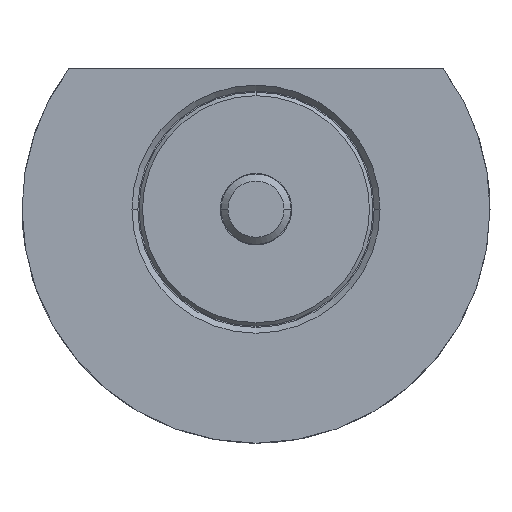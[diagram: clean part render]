
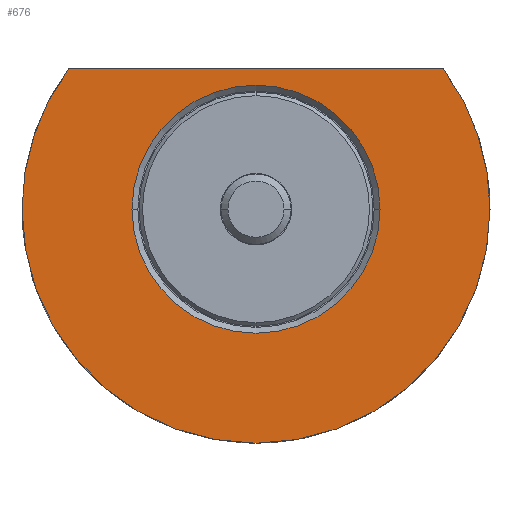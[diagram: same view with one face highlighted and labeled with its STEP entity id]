
A CAD part, front view. The second image highlights one B-rep face of the part: STEP entity #676.
In plain terms, the highlighted planar face has unit normal (0, -1, 0).
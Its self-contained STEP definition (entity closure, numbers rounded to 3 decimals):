
#101 = DIRECTION ( 'NONE',  ( 1., 0., 0. ) ) ;
#130 = DIRECTION ( 'NONE',  ( -1., 0., 0. ) ) ;
#151 = CIRCLE ( 'NONE', #2389, 20. ) ;
#154 = CIRCLE ( 'NONE', #1206, 20. ) ;
#170 = CARTESIAN_POINT ( 'NONE',  ( 0., -10., 0. ) ) ;
#225 = CIRCLE ( 'NONE', #688, 10.6 ) ;
#267 = LINE ( 'NONE', #2267, #2153 ) ;
#293 = DIRECTION ( 'NONE',  ( 0., -1., 0. ) ) ;
#378 = EDGE_LOOP ( 'NONE', ( #722, #2509, #1837, #828 ) ) ;
#576 = EDGE_CURVE ( 'NONE', #1182, #652, #267, .T. ) ;
#583 = DIRECTION ( 'NONE',  ( 0., 1., 0. ) ) ;
#652 = VERTEX_POINT ( 'NONE', #2337 ) ;
#676 = ADVANCED_FACE ( 'NONE', ( #1691, #2518 ), #2312, .T. ) ;
#688 = AXIS2_PLACEMENT_3D ( 'NONE', #2430, #583, #1039 ) ;
#722 = ORIENTED_EDGE ( 'NONE', *, *, #1635, .F. ) ;
#828 = ORIENTED_EDGE ( 'NONE', *, *, #1261, .F. ) ;
#836 = DIRECTION ( 'NONE',  ( 0., 1., 0. ) ) ;
#840 = EDGE_LOOP ( 'NONE', ( #1400, #2031 ) ) ;
#930 = DIRECTION ( 'NONE',  ( 0., 1., 0. ) ) ;
#931 = CARTESIAN_POINT ( 'NONE',  ( -10.6, -10., 0. ) ) ;
#942 = CARTESIAN_POINT ( 'NONE',  ( 0., -10., 0. ) ) ;
#972 = DIRECTION ( 'NONE',  ( -1., 0., 0. ) ) ;
#1039 = DIRECTION ( 'NONE',  ( -1., 0., 0. ) ) ;
#1072 = DIRECTION ( 'NONE',  ( -1., 0., 0. ) ) ;
#1125 = CARTESIAN_POINT ( 'NONE',  ( -10.6, -10., 0. ) ) ;
#1167 = AXIS2_PLACEMENT_3D ( 'NONE', #942, #930, #130 ) ;
#1182 = VERTEX_POINT ( 'NONE', #2619 ) ;
#1206 = AXIS2_PLACEMENT_3D ( 'NONE', #1213, #836, #2613 ) ;
#1213 = CARTESIAN_POINT ( 'NONE',  ( 0., -10., 0. ) ) ;
#1261 = EDGE_CURVE ( 'NONE', #2344, #1836, #2343, .T. ) ;
#1393 = EDGE_CURVE ( 'NONE', #1836, #652, #151, .T. ) ;
#1400 = ORIENTED_EDGE ( 'NONE', *, *, #1451, .T. ) ;
#1451 = EDGE_CURVE ( 'NONE', #2525, #2544, #2298, .T. ) ;
#1616 = EDGE_CURVE ( 'NONE', #2544, #2525, #225, .T. ) ;
#1635 = EDGE_CURVE ( 'NONE', #1182, #2344, #154, .T. ) ;
#1691 = FACE_BOUND ( 'NONE', #840, .T. ) ;
#1728 = DIRECTION ( 'NONE',  ( 0., 1., 0. ) ) ;
#1836 = VERTEX_POINT ( 'NONE', #2320 ) ;
#1837 = ORIENTED_EDGE ( 'NONE', *, *, #1393, .F. ) ;
#1910 = AXIS2_PLACEMENT_3D ( 'NONE', #2522, #2114, #1072 ) ;
#2031 = ORIENTED_EDGE ( 'NONE', *, *, #1616, .T. ) ;
#2036 = AXIS2_PLACEMENT_3D ( 'NONE', #1125, #293, #101 ) ;
#2114 = DIRECTION ( 'NONE',  ( 0., 1., 0. ) ) ;
#2149 = CARTESIAN_POINT ( 'NONE',  ( 10.6, -10., 0. ) ) ;
#2153 = VECTOR ( 'NONE', #2243, 1000. ) ;
#2241 = CARTESIAN_POINT ( 'NONE',  ( 20., -10., 0. ) ) ;
#2243 = DIRECTION ( 'NONE',  ( -1., 0., 0. ) ) ;
#2267 = CARTESIAN_POINT ( 'NONE',  ( -10.6, -10., 11.999 ) ) ;
#2298 = CIRCLE ( 'NONE', #1167, 10.6 ) ;
#2312 = PLANE ( 'NONE',  #2036 ) ;
#2320 = CARTESIAN_POINT ( 'NONE',  ( -20., -10., 0. ) ) ;
#2337 = CARTESIAN_POINT ( 'NONE',  ( -16.001, -10., 11.999 ) ) ;
#2343 = CIRCLE ( 'NONE', #1910, 20. ) ;
#2344 = VERTEX_POINT ( 'NONE', #2241 ) ;
#2389 = AXIS2_PLACEMENT_3D ( 'NONE', #170, #1728, #972 ) ;
#2430 = CARTESIAN_POINT ( 'NONE',  ( 0., -10., 0. ) ) ;
#2509 = ORIENTED_EDGE ( 'NONE', *, *, #576, .T. ) ;
#2518 = FACE_OUTER_BOUND ( 'NONE', #378, .T. ) ;
#2522 = CARTESIAN_POINT ( 'NONE',  ( 0., -10., 0. ) ) ;
#2525 = VERTEX_POINT ( 'NONE', #2149 ) ;
#2544 = VERTEX_POINT ( 'NONE', #931 ) ;
#2613 = DIRECTION ( 'NONE',  ( -1., 0., 0. ) ) ;
#2619 = CARTESIAN_POINT ( 'NONE',  ( 16.001, -10., 11.999 ) ) ;
